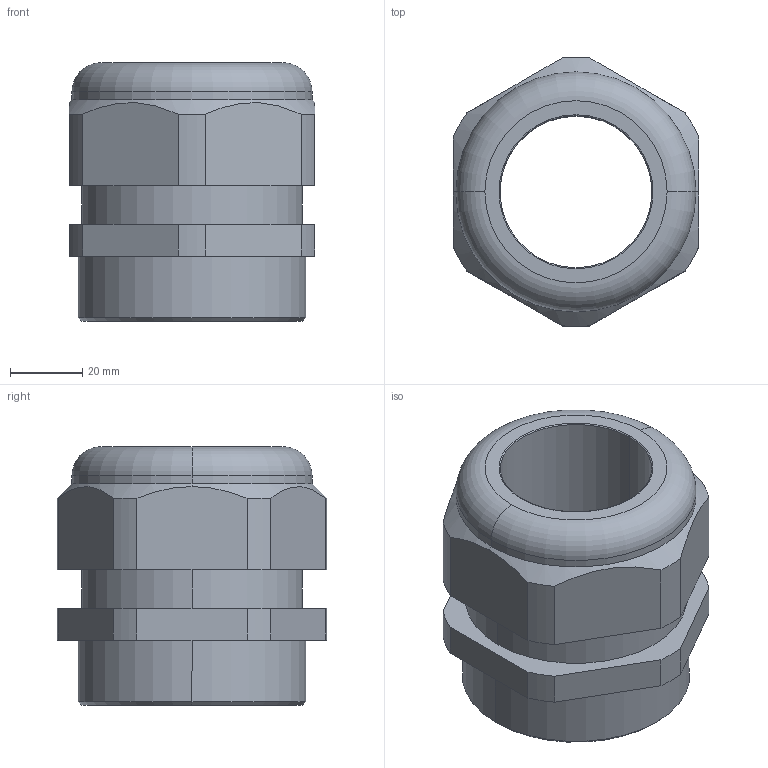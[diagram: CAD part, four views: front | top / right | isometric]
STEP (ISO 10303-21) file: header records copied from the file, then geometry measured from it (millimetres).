
FILE_DESCRIPTION (( 'STEP AP203' ), '1' );
FILE_NAME ('50.663 PA7001L.STEP', '2005-09-19T09:54:22', ( ' ' ), ( '' ), 'SwSTEP 2.0', 'SolidWorks 2005143', '' );
FILE_SCHEMA (( 'CONFIG_CONTROL_DESIGN' ));
Length unit declared in the file: millimetre
Products named in the file (1): 50.663 PA7001L
Bounding box: 68 x 74.46 x 71.5 mm (x, y, z)
Volume: 149278.4 mm3; surface area: 30632.3 mm2
Topology: 1 solids, 1 shells, 82 faces, 214 edges, 140 vertices
Faces by surface type: plane 54, cylinder 20, cone 4, torus 4
Entity records: 2671 total; most frequent: CARTESIAN_POINT 539, ORIENTED_EDGE 428, DIRECTION 422, EDGE_CURVE 214, VECTOR 156, LINE 156, VERTEX_POINT 140, AXIS2_PLACEMENT_3D 133
